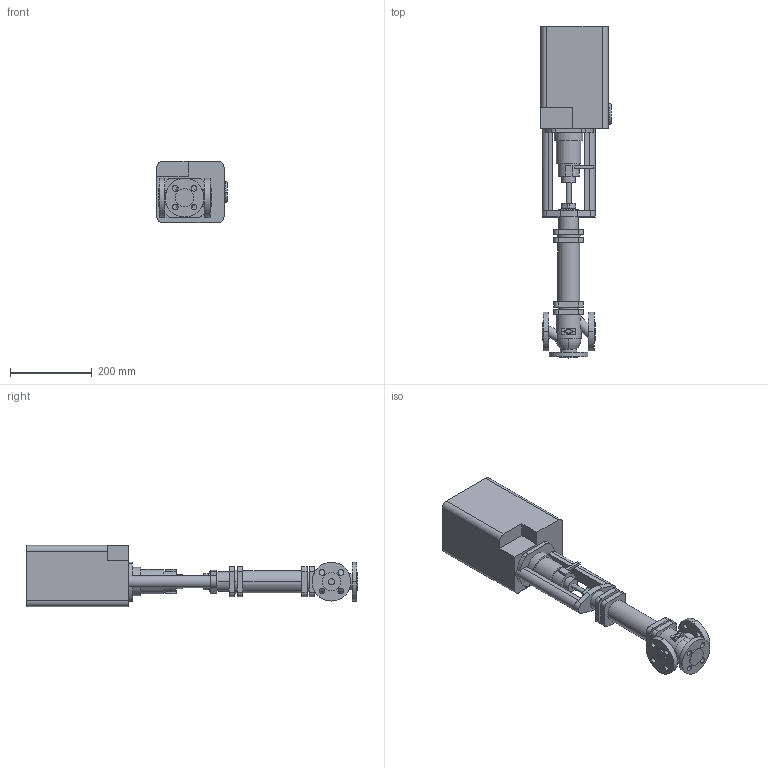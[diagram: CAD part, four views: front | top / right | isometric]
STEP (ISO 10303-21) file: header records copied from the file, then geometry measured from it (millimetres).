
FILE_DESCRIPTION(('OneSpaceDesigner STEP Export'),'2;1');
FILE_NAME('c000000414.stp','2006-09-21T11:35:47',(''),(''),'OneSpace Designer STEP processor for AP214 (Solid Model)','OneSpace Designer 13.20A 18-Aug-2005 (C) CoCreate Software GmbH','');
FILE_SCHEMA(('AUTOMOTIVE_DESIGN { 1 0 10303 214 1 1 1 1 }'));
Length unit declared in the file: millimetre
Products named in the file (2): 1; 2
Bounding box: 173 x 814 x 150 mm (x, y, z)
Volume: 8084901.9 mm3; surface area: 434367.4 mm2
Topology: 2 solids, 2 shells, 235 faces, 600 edges, 400 vertices
Faces by surface type: cylinder 116, plane 115, torus 4
Entity records: 6812 total; most frequent: CARTESIAN_POINT 1282, ORIENTED_EDGE 1200, DIRECTION 1063, EDGE_CURVE 600, VERTEX_POINT 400, AXIS2_PLACEMENT_3D 366, VECTOR 331, LINE 331
